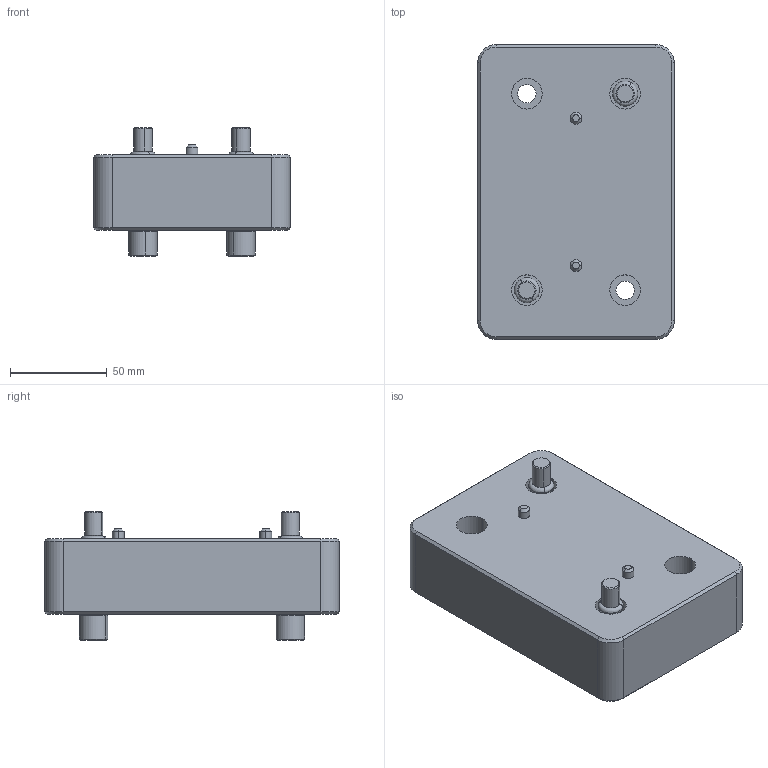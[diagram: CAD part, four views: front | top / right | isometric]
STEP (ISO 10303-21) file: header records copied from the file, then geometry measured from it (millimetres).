
FILE_DESCRIPTION (( 'STEP AP203' ), '1' );
FILE_NAME ('ACC-N900557-2.STEP', '2026-07-21T17:05:02', ( '' ), ( '' ), 'SwSTEP 2.0', 'SolidWorks 2025', '' );
FILE_SCHEMA (( 'CONFIG_CONTROL_DESIGN' ));
Length unit declared in the file: inch
Products named in the file (5): N100767-1; ACC-N900557-2; N100765-1; WASHER_WF-NY-BK-.312-.375-.570-.031; N200163-X_N200163-.125-.250-EPDM
Assembly tree (7 placements, depth 2):
  ACC-N900557-2
    N100765-1
    N100767-1  x2
    WASHER_WF-NY-BK-.312-.375-.570-.031  x2
    N200163-X_N200163-.125-.250-EPDM  x2
Bounding box: 101.6 x 152.4 x 66.67 mm (x, y, z)
Volume: 592392.3 mm3; surface area: 60892.4 mm2
Topology: 7 solids, 7 shells, 128 faces, 268 edges, 158 vertices
Faces by surface type: cylinder 52, cone 36, plane 32, torus 8
Entity records: 3273 total; most frequent: DIRECTION 532, CARTESIAN_POINT 438, ORIENTED_EDGE 412, AXIS2_PLACEMENT_3D 218, EDGE_CURVE 206, VERTEX_POINT 124, EDGE_LOOP 118, CIRCLE 110
